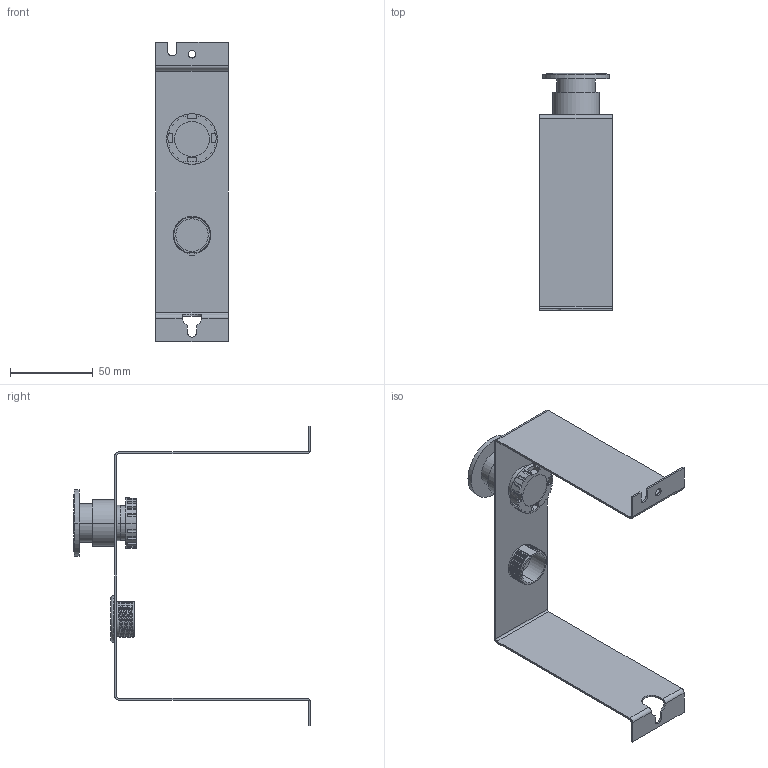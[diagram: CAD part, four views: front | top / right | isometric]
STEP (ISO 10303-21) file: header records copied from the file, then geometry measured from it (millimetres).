
FILE_DESCRIPTION (( 'STEP AP203' ), '1' );
FILE_NAME ('KESWPE.STEP', '2020-01-27T14:02:22', ( 'Usuário do Windows' ), ( 'WEG Equipamentos Elétricos' ), 'SwSTEP 2.0', 'SolidWorks 2018', '' );
FILE_SCHEMA (( 'CONFIG_CONTROL_DESIGN' ));
Length unit declared in the file: millimetre
Products named in the file (2): KESWPE
Bounding box: 44 x 143.1 x 180.8 mm (x, y, z)
Volume: 45012 mm3; surface area: 46475.2 mm2
Topology: 4 solids, 4 shells, 246 faces, 649 edges, 418 vertices
Faces by surface type: plane 150, cylinder 62, bspline 28, torus 4, sphere 2
Entity records: 21221 total; most frequent: CARTESIAN_POINT 15192, ORIENTED_EDGE 1298, DIRECTION 1136, EDGE_CURVE 649, VERTEX_POINT 418, VECTOR 394, LINE 394, AXIS2_PLACEMENT_3D 371
